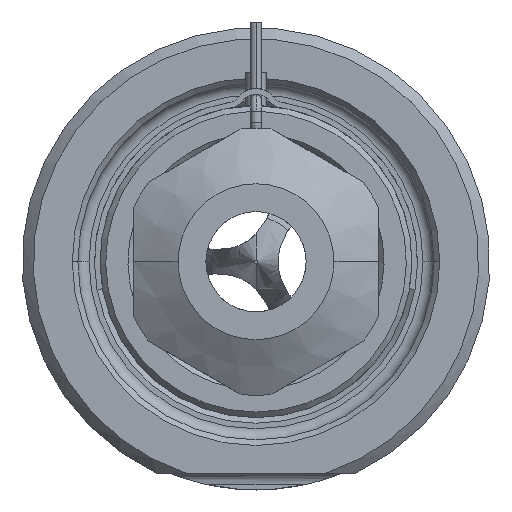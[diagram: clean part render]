
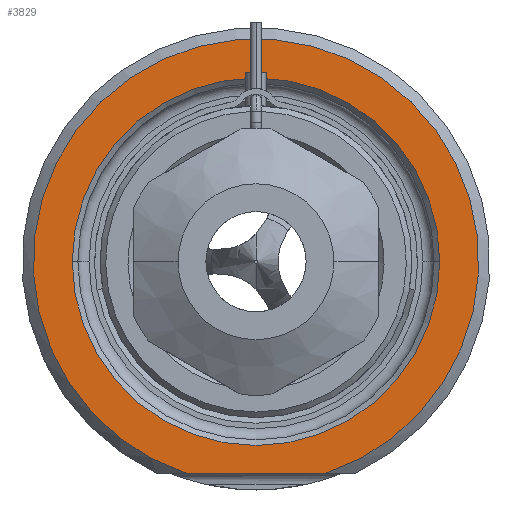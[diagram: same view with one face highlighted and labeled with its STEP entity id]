
A CAD part, front view. The second image highlights one B-rep face of the part: STEP entity #3829.
In plain terms, the highlighted planar face has unit normal (0, -1, 0).
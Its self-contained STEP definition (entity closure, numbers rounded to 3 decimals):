
#1=DIRECTION('',(1.,0.,0.));
#2=VECTOR('',#1,12.49);
#3=CARTESIAN_POINT('',(-6.245,0.,-19.));
#4=LINE('',#3,#2);
#5=CARTESIAN_POINT('',(0.,0.,0.));
#6=DIRECTION('',(0.,1.,0.));
#7=DIRECTION('',(-1.,0.,0.));
#8=AXIS2_PLACEMENT_3D('',#5,#6,#7);
#10=CARTESIAN_POINT('',(0.,0.,0.));
#11=DIRECTION('',(0.,1.,0.));
#12=DIRECTION('',(1.,0.,0.));
#13=AXIS2_PLACEMENT_3D('',#10,#11,#12);
#119=CARTESIAN_POINT('',(0.,0.,0.));
#120=DIRECTION('',(0.,-1.,0.));
#121=DIRECTION('',(0.312,0.,-0.95));
#122=AXIS2_PLACEMENT_3D('',#119,#120,#121);
#3214=CARTESIAN_POINT('',(-16.5,0.,0.));
#3215=CARTESIAN_POINT('',(16.5,0.,0.));
#3216=VERTEX_POINT('',#3214);
#3217=VERTEX_POINT('',#3215);
#3254=CARTESIAN_POINT('',(-6.245,0.,-19.));
#3255=CARTESIAN_POINT('',(6.245,0.,-19.));
#3256=VERTEX_POINT('',#3254);
#3257=VERTEX_POINT('',#3255);
#3812=CARTESIAN_POINT('',(0.,0.,0.));
#3813=DIRECTION('',(0.,-1.,0.));
#3814=DIRECTION('',(1.,0.,0.));
#3815=AXIS2_PLACEMENT_3D('',#3812,#3813,#3814);
#3816=PLANE('',#3815);
#3818=ORIENTED_EDGE('',*,*,#3817,.F.);
#3820=ORIENTED_EDGE('',*,*,#3819,.F.);
#3821=EDGE_LOOP('',(#3818,#3820));
#3822=FACE_OUTER_BOUND('',#3821,.F.);
#3824=ORIENTED_EDGE('',*,*,#3823,.F.);
#3826=ORIENTED_EDGE('',*,*,#3825,.F.);
#3827=EDGE_LOOP('',(#3824,#3826));
#3828=FACE_BOUND('',#3827,.F.);
#3829=ADVANCED_FACE('',(#3822,#3828),#3816,.T.);
#9=CIRCLE('',#8,16.5);
#14=CIRCLE('',#13,16.5);
#123=CIRCLE('',#122,20.);
#3817=EDGE_CURVE('',#3256,#3257,#4,.T.);
#3819=EDGE_CURVE('',#3257,#3256,#123,.T.);
#3823=EDGE_CURVE('',#3216,#3217,#9,.T.);
#3825=EDGE_CURVE('',#3217,#3216,#14,.T.);
